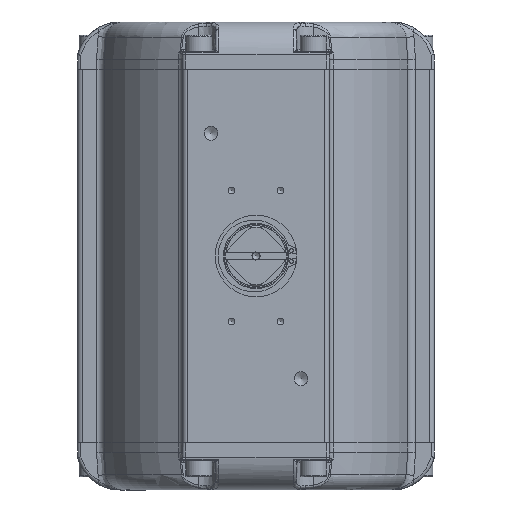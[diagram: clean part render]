
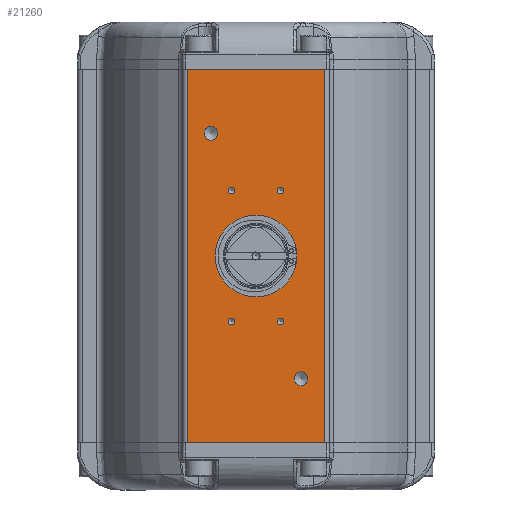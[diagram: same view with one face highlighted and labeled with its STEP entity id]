
A CAD part, front view. The second image highlights one B-rep face of the part: STEP entity #21260.
In plain terms, the highlighted planar face has unit normal (0, -1, 0).
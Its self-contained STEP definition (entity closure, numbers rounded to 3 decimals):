
#19019=CARTESIAN_POINT('',(-31.688,-105.,75.0));
#19020=VERTEX_POINT('',#19019);
#19021=CARTESIAN_POINT('',(-27.5,-105.,75.));
#19022=DIRECTION('',(0.0,1.0,0.0));
#19023=DIRECTION('',(-1.0,0.0,0.0));
#19024=AXIS2_PLACEMENT_3D('',#19021,#19022,#19023);
#19025=CIRCLE('',#19024,4.188);
#19026=EDGE_CURVE('',#19020,#19020,#19025,.T.);
#19056=CARTESIAN_POINT('',(23.312,-105.,-75.));
#19057=VERTEX_POINT('',#19056);
#19058=CARTESIAN_POINT('',(27.5,-105.,-75.));
#19059=DIRECTION('',(0.0,1.0,0.0));
#19060=DIRECTION('',(-1.0,0.0,0.0));
#19061=AXIS2_PLACEMENT_3D('',#19058,#19059,#19060);
#19062=CIRCLE('',#19061,4.188);
#19063=EDGE_CURVE('',#19057,#19057,#19062,.T.);
#19965=CARTESIAN_POINT('',(42.,-105.0,114.));
#19966=VERTEX_POINT('',#19965);
#20206=CARTESIAN_POINT('',(-42.,-105.,114.));
#20207=VERTEX_POINT('',#20206);
#20215=CARTESIAN_POINT('',(42.,-105.0,114.));
#20216=DIRECTION('',(-1.0,0.0,0.0));
#20217=VECTOR('',#20216,84.0);
#20218=LINE('',#20215,#20217);
#20219=EDGE_CURVE('',#19966,#20207,#20218,.T.);
#20317=CARTESIAN_POINT('',(42.,-105.,-114.));
#20318=VERTEX_POINT('',#20317);
#20328=CARTESIAN_POINT('',(-42.,-105.0,-114.));
#20329=VERTEX_POINT('',#20328);
#20330=CARTESIAN_POINT('',(-42.,-105.0,-114.));
#20331=DIRECTION('',(1.0,0.0,0.0));
#20332=VECTOR('',#20331,84.0);
#20333=LINE('',#20330,#20332);
#20334=EDGE_CURVE('',#20329,#20318,#20333,.T.);
#20688=CARTESIAN_POINT('',(-17.067,-105.0,40.));
#20689=VERTEX_POINT('',#20688);
#20690=CARTESIAN_POINT('',(-15.,-105.0,40.));
#20691=DIRECTION('',(0.0,1.0,0.0));
#20692=DIRECTION('',(-1.0,0.0,0.0));
#20693=AXIS2_PLACEMENT_3D('',#20690,#20691,#20692);
#20694=CIRCLE('',#20693,2.067);
#20695=EDGE_CURVE('',#20689,#20689,#20694,.T.);
#20725=CARTESIAN_POINT('',(12.933,-105.0,-40.));
#20726=VERTEX_POINT('',#20725);
#20727=CARTESIAN_POINT('',(15.,-105.0,-40.));
#20728=DIRECTION('',(0.0,1.0,0.0));
#20729=DIRECTION('',(-1.0,0.0,0.0));
#20730=AXIS2_PLACEMENT_3D('',#20727,#20728,#20729);
#20731=CIRCLE('',#20730,2.067);
#20732=EDGE_CURVE('',#20726,#20726,#20731,.T.);
#20762=CARTESIAN_POINT('',(-17.067,-105.0,-40.));
#20763=VERTEX_POINT('',#20762);
#20764=CARTESIAN_POINT('',(-15.,-105.0,-40.));
#20765=DIRECTION('',(0.0,1.0,0.0));
#20766=DIRECTION('',(-1.0,0.0,0.0));
#20767=AXIS2_PLACEMENT_3D('',#20764,#20765,#20766);
#20768=CIRCLE('',#20767,2.067);
#20769=EDGE_CURVE('',#20763,#20763,#20768,.T.);
#20799=CARTESIAN_POINT('',(12.933,-105.0,40.));
#20800=VERTEX_POINT('',#20799);
#20801=CARTESIAN_POINT('',(15.,-105.0,40.));
#20802=DIRECTION('',(0.0,1.0,0.0));
#20803=DIRECTION('',(-1.0,0.0,0.0));
#20804=AXIS2_PLACEMENT_3D('',#20801,#20802,#20803);
#20805=CIRCLE('',#20804,2.067);
#20806=EDGE_CURVE('',#20800,#20800,#20805,.T.);
#21082=CARTESIAN_POINT('',(42.,-105.,114.));
#21083=DIRECTION('',(0.0,0.0,-1.0));
#21084=VECTOR('',#21083,228.0);
#21085=LINE('',#21082,#21084);
#21086=EDGE_CURVE('',#19966,#20318,#21085,.T.);
#21211=CARTESIAN_POINT('',(-42.,-105.,-114.));
#21212=DIRECTION('',(0.0,0.0,1.0));
#21213=VECTOR('',#21212,228.0);
#21214=LINE('',#21211,#21213);
#21215=EDGE_CURVE('',#20329,#20207,#21214,.T.);
#21220=CARTESIAN_POINT('',(45.,-105.,0.));
#21221=DIRECTION('',(0.0,-1.0,0.0));
#21222=DIRECTION('',(0.0,0.0,1.0));
#21223=AXIS2_PLACEMENT_3D('',#21220,#21221,#21222);
#21224=PLANE('',#21223);
#21225=ORIENTED_EDGE('',*,*,#21086,.F.);
#21226=ORIENTED_EDGE('',*,*,#20219,.T.);
#21227=ORIENTED_EDGE('',*,*,#21215,.F.);
#21228=ORIENTED_EDGE('',*,*,#20334,.T.);
#21229=EDGE_LOOP('',(#21225,#21226,#21227,#21228));
#21230=FACE_OUTER_BOUND('',#21229,.T.);
#21231=ORIENTED_EDGE('',*,*,#19026,.T.);
#21232=EDGE_LOOP('',(#21231));
#21233=FACE_BOUND('',#21232,.T.);
#21234=ORIENTED_EDGE('',*,*,#19063,.T.);
#21235=EDGE_LOOP('',(#21234));
#21236=FACE_BOUND('',#21235,.T.);
#21237=ORIENTED_EDGE('',*,*,#20695,.T.);
#21238=EDGE_LOOP('',(#21237));
#21239=FACE_BOUND('',#21238,.T.);
#21240=ORIENTED_EDGE('',*,*,#20732,.T.);
#21241=EDGE_LOOP('',(#21240));
#21242=FACE_BOUND('',#21241,.T.);
#21243=ORIENTED_EDGE('',*,*,#20769,.T.);
#21244=EDGE_LOOP('',(#21243));
#21245=FACE_BOUND('',#21244,.T.);
#21246=ORIENTED_EDGE('',*,*,#20806,.T.);
#21247=EDGE_LOOP('',(#21246));
#21248=FACE_BOUND('',#21247,.T.);
#21249=CARTESIAN_POINT('',(-20.,-105.0,0.));
#21250=VERTEX_POINT('',#21249);
#21251=CARTESIAN_POINT('',(0.,-105.0,0.));
#21252=DIRECTION('',(0.0,1.0,0.0));
#21253=DIRECTION('',(-1.0,0.0,0.0));
#21254=AXIS2_PLACEMENT_3D('',#21251,#21252,#21253);
#21255=CIRCLE('',#21254,20.0);
#21256=EDGE_CURVE('',#21250,#21250,#21255,.T.);
#21257=ORIENTED_EDGE('',*,*,#21256,.T.);
#21258=EDGE_LOOP('',(#21257));
#21259=FACE_BOUND('',#21258,.T.);
#21260=ADVANCED_FACE('',(#21230,#21233,#21236,#21239,#21242,#21245,#21248,#21259),#21224,.T.);
